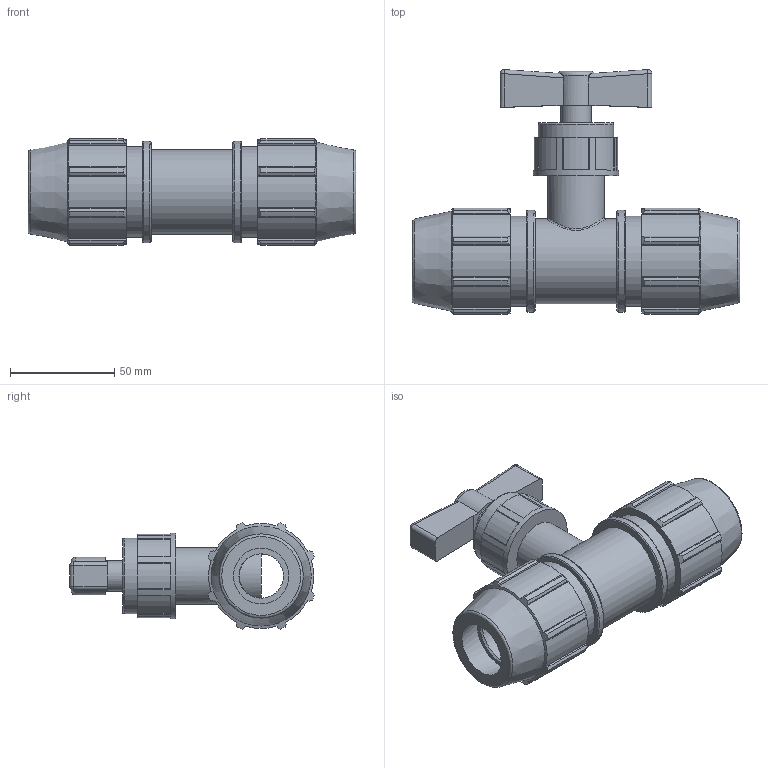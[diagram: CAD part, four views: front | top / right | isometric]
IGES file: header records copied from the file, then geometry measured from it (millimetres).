
Global section: file name: 0340M007.ipt; native system: Autodesk Inventor 2019; preprocessor: unknown; author: KIM; date: 20210826.124255; units: inch
Bounding box: 156.97 x 117.19 x 50.91 mm (x, y, z)
Volume: 244282.4 mm3; surface area: 53502.3 mm2
Topology: 1 solids, 1 shells, 235 faces, 657 edges, 439 vertices
Faces by surface type: plane 132, cylinder 63, cone 20, revolution 15, sphere 4, bspline 1
Full cylindrical faces by diameter (mm): 14.549 x1, 27.28 x1, 36.373 x1, 40.576 x1, 40.919 x1, 43.282 x2, 48.692 x2
